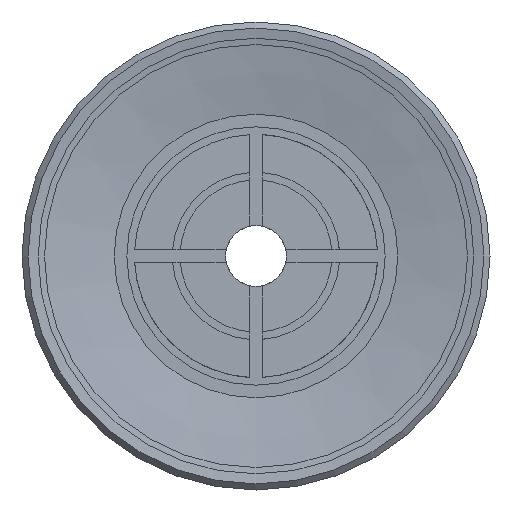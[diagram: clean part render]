
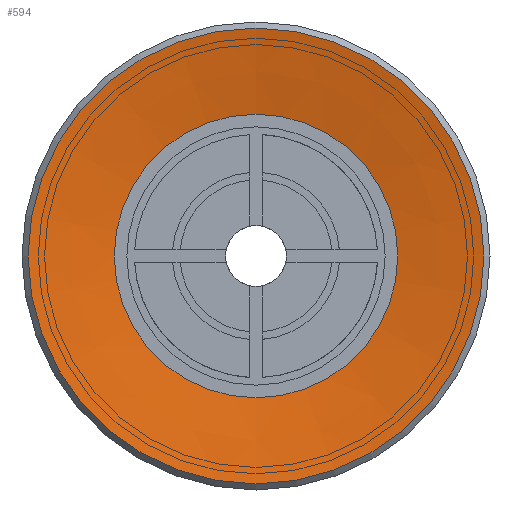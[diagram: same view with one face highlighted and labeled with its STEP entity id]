
A CAD part, front view. The second image highlights one B-rep face of the part: STEP entity #594.
In plain terms, the highlighted conical face has half-angle 80 degrees and reference radius 4.664 mm.
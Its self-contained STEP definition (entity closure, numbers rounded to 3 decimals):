
#594=ADVANCED_FACE('',(#947,#948),#949,.F.);
#947=FACE_BOUND('',#1330,.T.);
#948=FACE_OUTER_BOUND('',#1331,.T.);
#949=CONICAL_SURFACE('',#1332,4.664,1.396);
#1330=EDGE_LOOP('',(#2357));
#1331=EDGE_LOOP('',(#2358));
#1332=AXIS2_PLACEMENT_3D('',#2359,#2360,#2361);
#2357=ORIENTED_EDGE('',*,*,#2782,.F.);
#2358=ORIENTED_EDGE('',*,*,#2751,.T.);
#2359=CARTESIAN_POINT('',(0.0,0.5,0.0));
#2360=DIRECTION('',(-0.0,-1.0,0.));
#2361=DIRECTION('',(0.0,0.,-1.0));
#2751=EDGE_CURVE('',#3254,#3254,#3255,.T.);
#2782=EDGE_CURVE('',#3301,#3301,#3302,.T.);
#3254=VERTEX_POINT('',#4212);
#3255=CIRCLE('',#4213,7.5);
#3301=VERTEX_POINT('',#4310);
#3302=CIRCLE('',#4311,4.664);
#4212=CARTESIAN_POINT('',(0.0,0.,-7.5));
#4213=AXIS2_PLACEMENT_3D('',#4747,#4748,#4749);
#4310=CARTESIAN_POINT('',(0.0,0.5,-4.664));
#4311=AXIS2_PLACEMENT_3D('',#4784,#4785,#4786);
#4747=CARTESIAN_POINT('',(0.0,0.0,0.0));
#4748=DIRECTION('',(0.0,-1.0,0.));
#4749=DIRECTION('',(0.0,0.,-1.0));
#4784=CARTESIAN_POINT('',(0.0,0.5,0.0));
#4785=DIRECTION('',(0.0,-1.0,0.));
#4786=DIRECTION('',(0.0,0.,-1.0));
